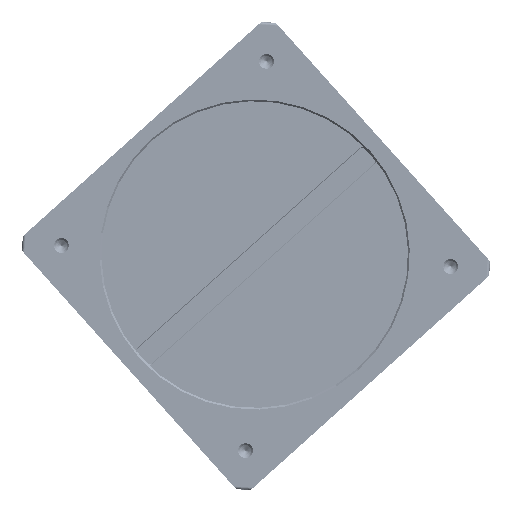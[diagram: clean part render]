
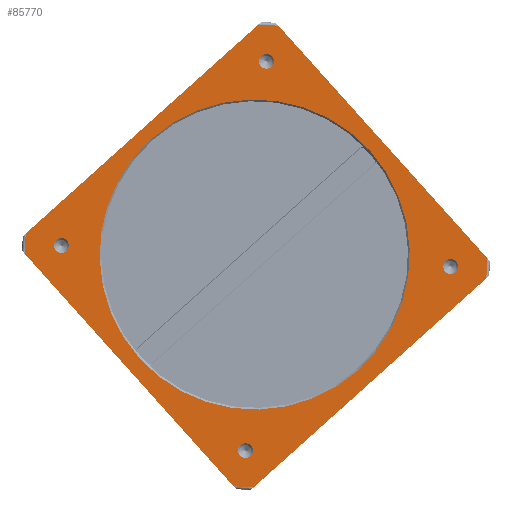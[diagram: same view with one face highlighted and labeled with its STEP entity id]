
A CAD part, front view. The second image highlights one B-rep face of the part: STEP entity #85770.
In plain terms, the highlighted planar face has unit normal (0, -1, 0).
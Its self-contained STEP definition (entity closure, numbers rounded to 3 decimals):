
#23474=CARTESIAN_POINT('',(136.881,-0.59,
-44.2));
#23516=CARTESIAN_POINT('',(197.513,-0.59,
-111.705));
#23539=CARTESIAN_POINT('',(203.347,-0.59,
-112.018));
#23575=DIRECTION('',(-0.999,0.,0.054));
#23576=VECTOR('',#23575,5.843);
#23577=CARTESIAN_POINT('',(203.347,-0.59,
-112.018));
#23578=LINE('',#23577,#23576);
#23579=DIRECTION('',(-0.668,0.,0.744));
#23580=VECTOR('',#23579,90.737);
#23581=CARTESIAN_POINT('',(197.513,-0.59,
-111.705));
#23582=LINE('',#23581,#23580);
#23583=DIRECTION('',(0.054,0.,0.999));
#23584=VECTOR('',#23583,5.843);
#23585=CARTESIAN_POINT('',(136.881,-0.59,
-44.2));
#23586=LINE('',#23585,#23584);
#23587=DIRECTION('',(0.999,0.,-0.054));
#23588=VECTOR('',#23587,5.843);
#23589=CARTESIAN_POINT('',(204.699,-0.59,
22.267));
#23590=LINE('',#23589,#23588);
#23591=DIRECTION('',(-0.054,0.,-0.999));
#23592=VECTOR('',#23591,5.843);
#23593=CARTESIAN_POINT('',(271.165,-0.59,
-45.552));
#23594=LINE('',#23593,#23592);
#23595=DIRECTION('',(-0.744,0.,-0.668));
#23596=VECTOR('',#23595,90.737);
#23597=CARTESIAN_POINT('',(270.852,-0.59,
-51.386));
#23598=LINE('',#23597,#23596);
#23599=CARTESIAN_POINT('',(260.51,-0.59,
-47.906));
#23600=DIRECTION('',(0.,-1.,0.));
#23601=DIRECTION('',(0.744,0.,0.668));
#23602=AXIS2_PLACEMENT_3D('',#23599,#23600,#23601);
#23604=CARTESIAN_POINT('',(260.51,-0.59,
-47.906));
#23605=DIRECTION('',(0.,-1.,0.));
#23606=DIRECTION('',(-0.744,0.,-0.668));
#23607=AXIS2_PLACEMENT_3D('',#23604,#23605,#23606);
#23609=CARTESIAN_POINT('',(260.51,-0.59,
-47.906));
#23610=DIRECTION('',(0.,-1.,0.));
#23611=DIRECTION('',(0.668,0.,-0.744));
#23612=AXIS2_PLACEMENT_3D('',#23609,#23610,#23611);
#23614=CARTESIAN_POINT('',(207.053,-0.59,
11.612));
#23615=DIRECTION('',(0.,-1.,0.));
#23616=DIRECTION('',(0.744,0.,0.668));
#23617=AXIS2_PLACEMENT_3D('',#23614,#23615,#23616);
#23619=CARTESIAN_POINT('',(207.053,-0.59,
11.612));
#23620=DIRECTION('',(0.,-1.,0.));
#23621=DIRECTION('',(-0.744,0.,-0.668));
#23622=AXIS2_PLACEMENT_3D('',#23619,#23620,#23621);
#23624=CARTESIAN_POINT('',(207.053,-0.59,
11.612));
#23625=DIRECTION('',(0.,-1.,0.));
#23626=DIRECTION('',(0.668,0.,-0.744));
#23627=AXIS2_PLACEMENT_3D('',#23624,#23625,#23626);
#23629=CARTESIAN_POINT('',(147.536,-0.59,
-41.846));
#23630=DIRECTION('',(0.,-1.,0.));
#23631=DIRECTION('',(0.744,0.,0.668));
#23632=AXIS2_PLACEMENT_3D('',#23629,#23630,#23631);
#23634=CARTESIAN_POINT('',(147.536,-0.59,
-41.846));
#23635=DIRECTION('',(0.,-1.,0.));
#23636=DIRECTION('',(-0.744,0.,-0.668));
#23637=AXIS2_PLACEMENT_3D('',#23634,#23635,#23636);
#23639=CARTESIAN_POINT('',(147.536,-0.59,
-41.846));
#23640=DIRECTION('',(0.,-1.,0.));
#23641=DIRECTION('',(0.668,0.,-0.744));
#23642=AXIS2_PLACEMENT_3D('',#23639,#23640,#23641);
#23644=CARTESIAN_POINT('',(200.993,-0.59,
-101.363));
#23645=DIRECTION('',(0.,-1.,0.));
#23646=DIRECTION('',(0.744,0.,0.668));
#23647=AXIS2_PLACEMENT_3D('',#23644,#23645,#23646);
#23649=CARTESIAN_POINT('',(200.993,-0.59,
-101.363));
#23650=DIRECTION('',(0.,-1.,0.));
#23651=DIRECTION('',(-0.744,0.,-0.668));
#23652=AXIS2_PLACEMENT_3D('',#23649,#23650,#23651);
#23654=CARTESIAN_POINT('',(200.993,-0.59,
-101.363));
#23655=DIRECTION('',(0.,-1.,0.));
#23656=DIRECTION('',(0.668,0.,-0.744));
#23657=AXIS2_PLACEMENT_3D('',#23654,#23655,#23656);
#23659=CARTESIAN_POINT('',(203.642,-0.59,
-44.452));
#23660=DIRECTION('',(0.,-1.,0.));
#23661=DIRECTION('',(-0.668,0.,0.744));
#23662=AXIS2_PLACEMENT_3D('',#23659,#23660,#23661);
#23664=CARTESIAN_POINT('',(203.642,-0.59,
-44.452));
#23665=DIRECTION('',(0.,-1.,0.));
#23666=DIRECTION('',(0.668,0.,-0.744));
#23667=AXIS2_PLACEMENT_3D('',#23664,#23665,#23666);
#23692=DIRECTION('',(-0.744,0.,-0.668));
#23693=VECTOR('',#23692,90.737);
#23694=CARTESIAN_POINT('',(204.699,-0.59,
22.267));
#23695=LINE('',#23694,#23693);
#23765=DIRECTION('',(-0.668,0.,0.744));
#23766=VECTOR('',#23765,90.737);
#23767=CARTESIAN_POINT('',(271.165,-0.59,
-45.552));
#23768=LINE('',#23767,#23766);
#23839=CARTESIAN_POINT('',(270.852,-0.59,
-51.386));
#54943=VERTEX_POINT('',#23516);
#54944=VERTEX_POINT('',#23474);
#54978=VERTEX_POINT('',#23539);
#54980=VERTEX_POINT('',#23839);
#55005=CARTESIAN_POINT('',(173.572,-0.59,
-10.973));
#55006=CARTESIAN_POINT('',(233.712,-0.59,
-77.93));
#55007=VERTEX_POINT('',#55005);
#55008=VERTEX_POINT('',#55006);
#55009=CARTESIAN_POINT('',(262.11,-0.59,
-46.469));
#55010=CARTESIAN_POINT('',(258.911,-0.59,
-49.342));
#55011=VERTEX_POINT('',#55009);
#55012=VERTEX_POINT('',#55010);
#55013=CARTESIAN_POINT('',(261.947,-0.59,
-49.505));
#55014=VERTEX_POINT('',#55013);
#55015=CARTESIAN_POINT('',(208.652,-0.59,
13.048));
#55016=CARTESIAN_POINT('',(205.453,-0.59,
10.175));
#55017=VERTEX_POINT('',#55015);
#55018=VERTEX_POINT('',#55016);
#55019=CARTESIAN_POINT('',(208.49,-0.59,
10.012));
#55020=VERTEX_POINT('',#55019);
#55021=CARTESIAN_POINT('',(149.135,-0.59,
-40.409));
#55022=CARTESIAN_POINT('',(145.936,-0.59,
-43.282));
#55023=VERTEX_POINT('',#55021);
#55024=VERTEX_POINT('',#55022);
#55025=CARTESIAN_POINT('',(148.972,-0.59,
-43.445));
#55026=VERTEX_POINT('',#55025);
#55027=CARTESIAN_POINT('',(202.592,-0.59,
-99.926));
#55028=CARTESIAN_POINT('',(199.393,-0.59,
-102.8));
#55029=VERTEX_POINT('',#55027);
#55030=VERTEX_POINT('',#55028);
#55031=CARTESIAN_POINT('',(202.43,-0.59,
-102.962));
#55032=VERTEX_POINT('',#55031);
#55033=CARTESIAN_POINT('',(137.193,-0.59,
-38.365));
#55034=VERTEX_POINT('',#55033);
#55035=CARTESIAN_POINT('',(204.699,-0.59,
22.267));
#55036=VERTEX_POINT('',#55035);
#55037=CARTESIAN_POINT('',(210.533,-0.59,
21.954));
#55038=VERTEX_POINT('',#55037);
#55039=CARTESIAN_POINT('',(271.165,-0.59,
-45.552));
#55040=VERTEX_POINT('',#55039);
#85713=CARTESIAN_POINT('',(204.023,-0.59,
-44.876));
#85714=DIRECTION('',(0.,1.,0.));
#85715=DIRECTION('',(0.744,0.,0.668));
#85716=AXIS2_PLACEMENT_3D('',#85713,#85714,#85715);
#85717=PLANE('',#85716);
#85718=ORIENTED_EDGE('',*,*,#85674,.T.);
#85719=ORIENTED_EDGE('',*,*,#85647,.T.);
#85720=ORIENTED_EDGE('',*,*,#85630,.T.);
#85722=ORIENTED_EDGE('',*,*,#85721,.F.);
#85724=ORIENTED_EDGE('',*,*,#85723,.T.);
#85726=ORIENTED_EDGE('',*,*,#85725,.F.);
#85728=ORIENTED_EDGE('',*,*,#85727,.T.);
#85729=ORIENTED_EDGE('',*,*,#85685,.T.);
#85730=EDGE_LOOP('',(#85718,#85719,#85720,#85722,#85724,#85726,#85728,#85729));
#85731=FACE_OUTER_BOUND('',#85730,.F.);
#85733=ORIENTED_EDGE('',*,*,#85732,.T.);
#85735=ORIENTED_EDGE('',*,*,#85734,.T.);
#85737=ORIENTED_EDGE('',*,*,#85736,.T.);
#85738=EDGE_LOOP('',(#85733,#85735,#85737));
#85739=FACE_BOUND('',#85738,.F.);
#85741=ORIENTED_EDGE('',*,*,#85740,.T.);
#85743=ORIENTED_EDGE('',*,*,#85742,.T.);
#85745=ORIENTED_EDGE('',*,*,#85744,.T.);
#85746=EDGE_LOOP('',(#85741,#85743,#85745));
#85747=FACE_BOUND('',#85746,.F.);
#85749=ORIENTED_EDGE('',*,*,#85748,.T.);
#85751=ORIENTED_EDGE('',*,*,#85750,.T.);
#85753=ORIENTED_EDGE('',*,*,#85752,.T.);
#85754=EDGE_LOOP('',(#85749,#85751,#85753));
#85755=FACE_BOUND('',#85754,.F.);
#85757=ORIENTED_EDGE('',*,*,#85756,.T.);
#85759=ORIENTED_EDGE('',*,*,#85758,.T.);
#85761=ORIENTED_EDGE('',*,*,#85760,.T.);
#85762=EDGE_LOOP('',(#85757,#85759,#85761));
#85763=FACE_BOUND('',#85762,.F.);
#85765=ORIENTED_EDGE('',*,*,#85764,.T.);
#85767=ORIENTED_EDGE('',*,*,#85766,.T.);
#85768=EDGE_LOOP('',(#85765,#85767));
#85769=FACE_BOUND('',#85768,.F.);
#85770=ADVANCED_FACE('',(#85731,#85739,#85747,#85755,#85763,#85769),#85717,.F.);
#23603=CIRCLE('',#23602,2.15);
#23608=CIRCLE('',#23607,2.15);
#23613=CIRCLE('',#23612,2.15);
#23618=CIRCLE('',#23617,2.15);
#23623=CIRCLE('',#23622,2.15);
#23628=CIRCLE('',#23627,2.15);
#23633=CIRCLE('',#23632,2.15);
#23638=CIRCLE('',#23637,2.15);
#23643=CIRCLE('',#23642,2.15);
#23648=CIRCLE('',#23647,2.15);
#23653=CIRCLE('',#23652,2.15);
#23658=CIRCLE('',#23657,2.15);
#23663=CIRCLE('',#23662,45.);
#23668=CIRCLE('',#23667,45.);
#85630=EDGE_CURVE('',#54944,#55034,#23586,.T.);
#85647=EDGE_CURVE('',#54943,#54944,#23582,.T.);
#85674=EDGE_CURVE('',#54978,#54943,#23578,.T.);
#85685=EDGE_CURVE('',#54980,#54978,#23598,.T.);
#85721=EDGE_CURVE('',#55036,#55034,#23695,.T.);
#85723=EDGE_CURVE('',#55036,#55038,#23590,.T.);
#85725=EDGE_CURVE('',#55040,#55038,#23768,.T.);
#85727=EDGE_CURVE('',#55040,#54980,#23594,.T.);
#85732=EDGE_CURVE('',#55011,#55012,#23603,.T.);
#85734=EDGE_CURVE('',#55012,#55014,#23608,.T.);
#85736=EDGE_CURVE('',#55014,#55011,#23613,.T.);
#85740=EDGE_CURVE('',#55017,#55018,#23618,.T.);
#85742=EDGE_CURVE('',#55018,#55020,#23623,.T.);
#85744=EDGE_CURVE('',#55020,#55017,#23628,.T.);
#85748=EDGE_CURVE('',#55023,#55024,#23633,.T.);
#85750=EDGE_CURVE('',#55024,#55026,#23638,.T.);
#85752=EDGE_CURVE('',#55026,#55023,#23643,.T.);
#85756=EDGE_CURVE('',#55029,#55030,#23648,.T.);
#85758=EDGE_CURVE('',#55030,#55032,#23653,.T.);
#85760=EDGE_CURVE('',#55032,#55029,#23658,.T.);
#85764=EDGE_CURVE('',#55007,#55008,#23663,.T.);
#85766=EDGE_CURVE('',#55008,#55007,#23668,.T.);
